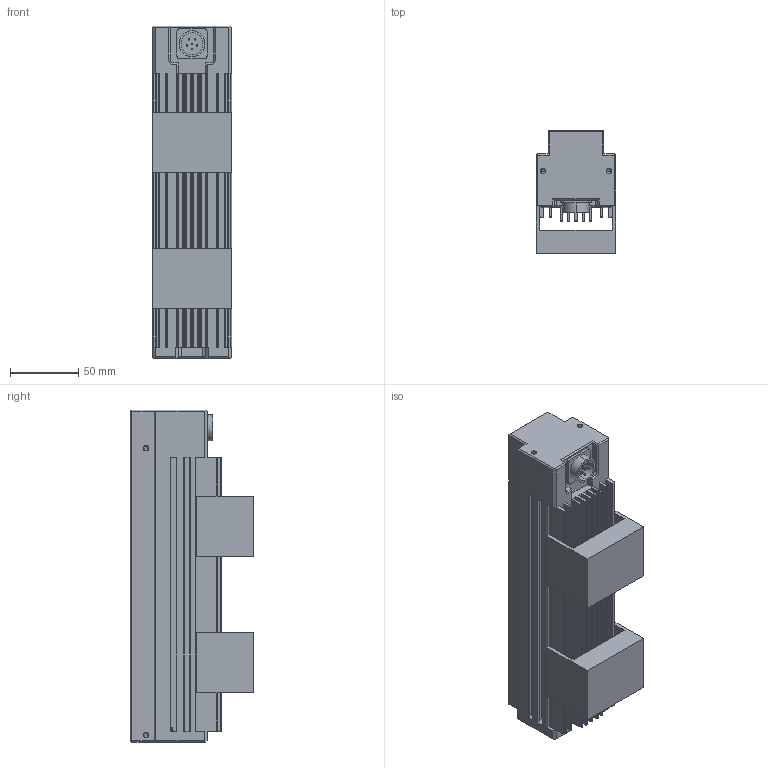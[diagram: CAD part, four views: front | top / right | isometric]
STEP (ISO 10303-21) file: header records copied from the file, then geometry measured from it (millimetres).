
FILE_DESCRIPTION((''),'2;1');
FILE_NAME('MV-LTHS-200-W','2019-09-19T',('win7'),(''),'PRO/ENGINEER BY PARAMETRIC TECHNOLOGY CORPORATION, 2010100','PRO/ENGINEER BY PARAMETRIC TECHNOLOGY CORPORATION, 2010100','');
FILE_SCHEMA(('CONFIG_CONTROL_DESIGN'));
Length unit declared in the file: millimetre
Products named in the file (1): MV-LTHS-200-W
Bounding box: 58 x 90.1 x 243 mm (x, y, z)
Volume: 798352.4 mm3; surface area: 130026.3 mm2
Topology: 1 solids, 9 shells, 324 faces, 870 edges, 550 vertices
Faces by surface type: plane 210, cylinder 88, cone 26
Entity records: 9938 total; most frequent: CARTESIAN_POINT 1752, DIRECTION 1696, ORIENTED_EDGE 1656, EDGE_CURVE 850, VECTOR 642, LINE 642, VERTEX_POINT 550, AXIS2_PLACEMENT_3D 527
